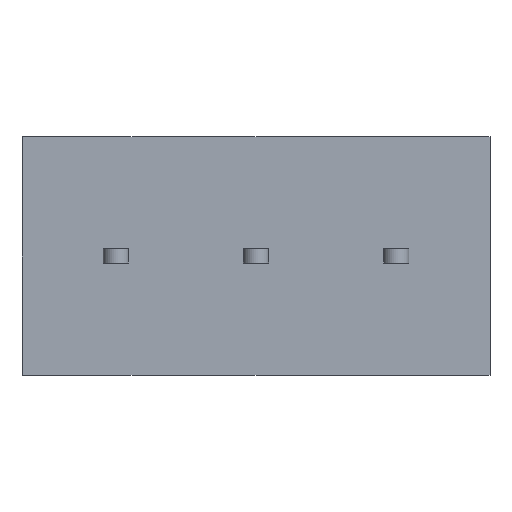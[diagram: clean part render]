
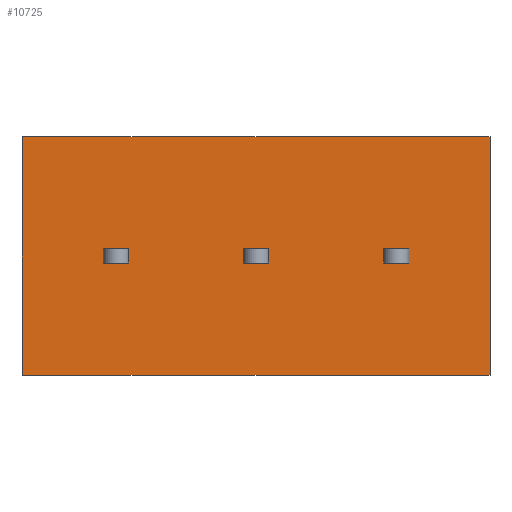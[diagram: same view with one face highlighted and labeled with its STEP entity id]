
A CAD part, front view. The second image highlights one B-rep face of the part: STEP entity #10725.
In plain terms, the highlighted planar face has unit normal (0, -1, 0).
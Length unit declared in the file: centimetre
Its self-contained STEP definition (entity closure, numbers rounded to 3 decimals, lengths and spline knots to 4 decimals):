
#662=VERTEX_POINT('',#13667);
#663=VERTEX_POINT('',#13668);
#666=VERTEX_POINT('',#13676);
#694=VERTEX_POINT('',#13747);
#744=VERTEX_POINT('',#13952);
#745=VERTEX_POINT('',#13953);
#748=VERTEX_POINT('',#13961);
#776=VERTEX_POINT('',#14032);
#872=VERTEX_POINT('',#14368);
#879=VERTEX_POINT('',#14381);
#1012=VERTEX_POINT('',#14814);
#1013=VERTEX_POINT('',#14815);
#1016=VERTEX_POINT('',#14823);
#1027=VERTEX_POINT('',#14858);
#1366=VERTEX_POINT('',#16371);
#1367=VERTEX_POINT('',#16373);
#1736=VECTOR('',#11586,1.);
#1740=VECTOR('',#11591,1.);
#1765=VECTOR('',#11647,1.);
#1767=VECTOR('',#11650,1.);
#1808=VECTOR('',#11804,1.);
#1812=VECTOR('',#11809,1.);
#1837=VECTOR('',#11865,1.);
#1839=VECTOR('',#11868,1.);
#1944=VECTOR('',#12126,1.);
#2082=VECTOR('',#12454,1.);
#2086=VECTOR('',#12459,1.);
#2097=VECTOR('',#12492,1.);
#2099=VECTOR('',#12495,1.);
#2508=VECTOR('',#13043,1.);
#2544=VECTOR('',#13098,1.);
#2545=VECTOR('',#13099,1.);
#2956=LINE('',#13666,#1736);
#2960=LINE('',#13675,#1740);
#2985=LINE('',#13746,#1765);
#2987=LINE('',#13750,#1767);
#3028=LINE('',#13951,#1808);
#3032=LINE('',#13960,#1812);
#3057=LINE('',#14031,#1837);
#3059=LINE('',#14035,#1839);
#3164=LINE('',#14382,#1944);
#3302=LINE('',#14813,#2082);
#3306=LINE('',#14822,#2086);
#3317=LINE('',#14857,#2097);
#3319=LINE('',#14861,#2099);
#3728=LINE('',#16372,#2508);
#3764=LINE('',#16452,#2544);
#3765=LINE('',#16453,#2545);
#4176=EDGE_CURVE('',#662,#663,#2956,.T.);
#4180=EDGE_CURVE('',#666,#662,#2960,.T.);
#4215=EDGE_CURVE('',#694,#666,#2985,.T.);
#4217=EDGE_CURVE('',#663,#694,#2987,.T.);
#4298=EDGE_CURVE('',#744,#745,#3028,.T.);
#4302=EDGE_CURVE('',#748,#744,#3032,.T.);
#4337=EDGE_CURVE('',#776,#748,#3057,.T.);
#4339=EDGE_CURVE('',#745,#776,#3059,.T.);
#4492=EDGE_CURVE('',#879,#872,#3164,.T.);
#4688=EDGE_CURVE('',#1012,#1013,#3302,.T.);
#4692=EDGE_CURVE('',#1016,#1012,#3306,.T.);
#4709=EDGE_CURVE('',#1027,#1016,#3317,.T.);
#4711=EDGE_CURVE('',#1013,#1027,#3319,.T.);
#5224=EDGE_CURVE('',#1367,#1366,#3728,.T.);
#5264=EDGE_CURVE('',#1366,#872,#3764,.T.);
#5265=EDGE_CURVE('',#879,#1367,#3765,.T.);
#7894=ORIENTED_EDGE('',*,*,#4180,.T.);
#7895=ORIENTED_EDGE('',*,*,#4176,.T.);
#7896=ORIENTED_EDGE('',*,*,#4217,.T.);
#7897=ORIENTED_EDGE('',*,*,#4215,.T.);
#7898=ORIENTED_EDGE('',*,*,#4302,.T.);
#7899=ORIENTED_EDGE('',*,*,#4298,.T.);
#7900=ORIENTED_EDGE('',*,*,#4339,.T.);
#7901=ORIENTED_EDGE('',*,*,#4337,.T.);
#7902=ORIENTED_EDGE('',*,*,#4692,.T.);
#7903=ORIENTED_EDGE('',*,*,#4688,.T.);
#7904=ORIENTED_EDGE('',*,*,#4711,.T.);
#7905=ORIENTED_EDGE('',*,*,#4709,.T.);
#7906=ORIENTED_EDGE('',*,*,#5264,.T.);
#7907=ORIENTED_EDGE('',*,*,#4492,.F.);
#7908=ORIENTED_EDGE('',*,*,#5265,.T.);
#7909=ORIENTED_EDGE('',*,*,#5224,.T.);
#9441=EDGE_LOOP('',(#7894,#7895,#7896,#7897));
#9442=EDGE_LOOP('',(#7898,#7899,#7900,#7901));
#9443=EDGE_LOOP('',(#7902,#7903,#7904,#7905));
#9444=EDGE_LOOP('',(#7906,#7907,#7908,#7909));
#10105=FACE_BOUND('',#9441,.T.);
#10106=FACE_BOUND('',#9442,.T.);
#10107=FACE_BOUND('',#9443,.T.);
#10108=FACE_BOUND('',#9444,.T.);
#10725=ADVANCED_FACE('',(#10105,#10106,#10107,#10108),#18265,.T.);
#11437=AXIS2_PLACEMENT_3D('',#16451,#13097,$);
#11586=DIRECTION('',(0.,0.,1.));
#11591=DIRECTION('',(-1.,0.,0.));
#11647=DIRECTION('',(0.,0.,-1.));
#11650=DIRECTION('',(1.,0.,0.));
#11804=DIRECTION('',(0.,0.,1.));
#11809=DIRECTION('',(-1.,0.,0.));
#11865=DIRECTION('',(0.,0.,-1.));
#11868=DIRECTION('',(1.,0.,0.));
#12126=DIRECTION('',(0.,0.,-1.));
#12454=DIRECTION('',(0.,0.,1.));
#12459=DIRECTION('',(-1.,0.,0.));
#12492=DIRECTION('',(0.,0.,-1.));
#12495=DIRECTION('',(1.,0.,0.));
#13043=DIRECTION('',(0.,0.,-1.));
#13097=DIRECTION('',(0.,-1.,0.));
#13098=DIRECTION('',(1.,0.,0.));
#13099=DIRECTION('',(-1.,0.,0.));
#13666=CARTESIAN_POINT('',(2.5,0.,-0.175));
#13667=CARTESIAN_POINT('',(2.5,0.,-0.05));
#13668=CARTESIAN_POINT('',(2.5,0.,0.05));
#13675=CARTESIAN_POINT('',(1.295,0.,-0.05));
#13676=CARTESIAN_POINT('',(2.68,0.,-0.05));
#13746=CARTESIAN_POINT('',(2.68,0.,-0.175));
#13747=CARTESIAN_POINT('',(2.68,0.,0.05));
#13750=CARTESIAN_POINT('',(1.295,0.,0.05));
#13951=CARTESIAN_POINT('',(1.5,0.,-0.175));
#13952=CARTESIAN_POINT('',(1.5,0.,-0.05));
#13953=CARTESIAN_POINT('',(1.5,0.,0.05));
#13960=CARTESIAN_POINT('',(0.795,0.,-0.05));
#13961=CARTESIAN_POINT('',(1.68,0.,-0.05));
#14031=CARTESIAN_POINT('',(1.68,0.,-0.175));
#14032=CARTESIAN_POINT('',(1.68,0.,0.05));
#14035=CARTESIAN_POINT('',(0.795,0.,0.05));
#14368=CARTESIAN_POINT('',(3.26,0.,-0.85));
#14381=CARTESIAN_POINT('',(3.26,0.,0.85));
#14382=CARTESIAN_POINT('',(3.26,0.,0.85));
#14813=CARTESIAN_POINT('',(0.5,0.,-0.175));
#14814=CARTESIAN_POINT('',(0.5,0.,-0.05));
#14815=CARTESIAN_POINT('',(0.5,0.,0.05));
#14822=CARTESIAN_POINT('',(0.295,0.,-0.05));
#14823=CARTESIAN_POINT('',(0.68,0.,-0.05));
#14857=CARTESIAN_POINT('',(0.68,0.,-0.175));
#14858=CARTESIAN_POINT('',(0.68,0.,0.05));
#14861=CARTESIAN_POINT('',(0.295,0.,0.05));
#16371=CARTESIAN_POINT('',(-0.08,0.,-0.85));
#16372=CARTESIAN_POINT('',(-0.08,0.,0.85));
#16373=CARTESIAN_POINT('',(-0.08,0.,0.85));
#16451=CARTESIAN_POINT('',(0.,0.,0.));
#16452=CARTESIAN_POINT('',(2.,0.,-0.85));
#16453=CARTESIAN_POINT('',(0.,0.,0.85));
#18265=PLANE('',#11437);
